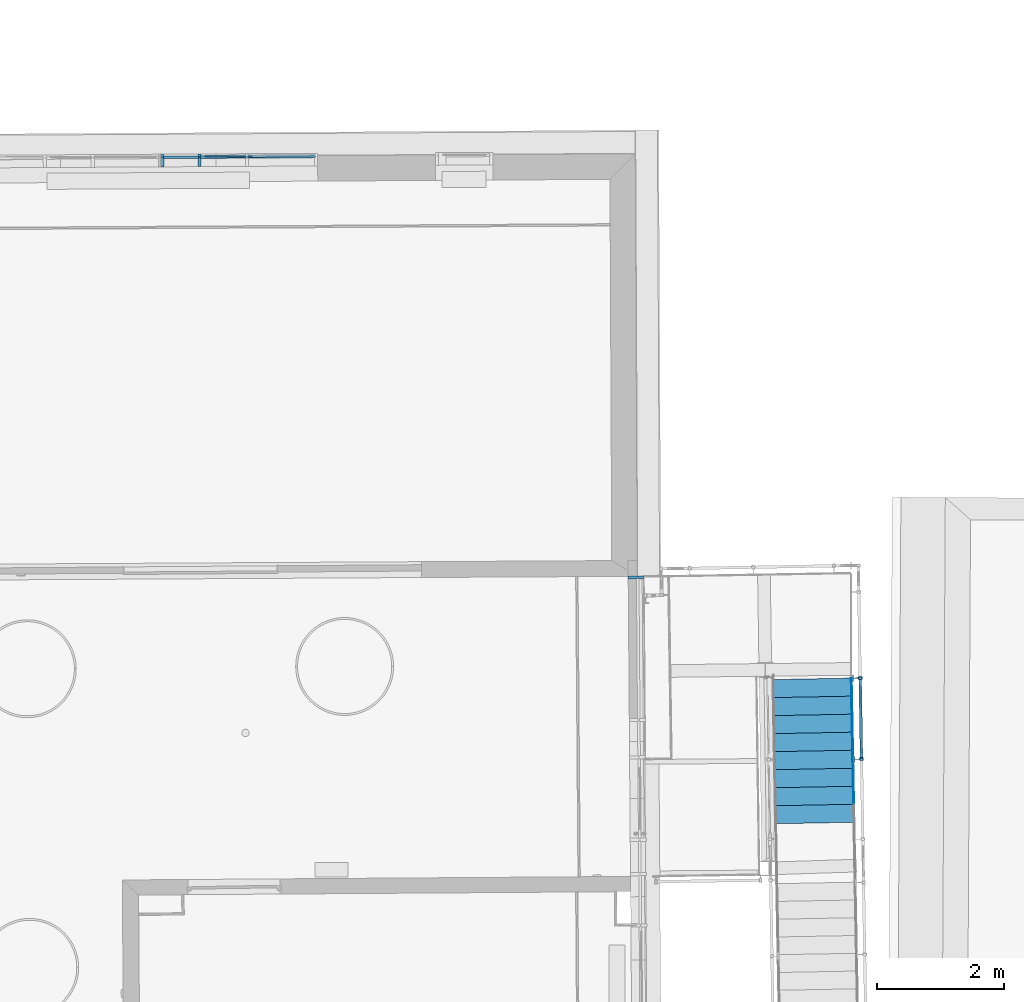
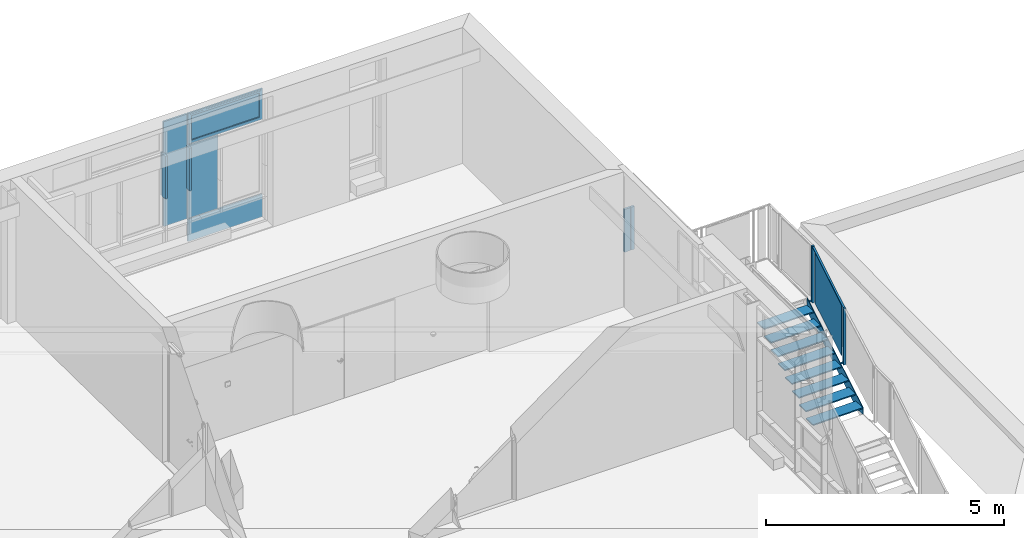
# One storey, part 109 of 158: 14 building element parts, 4 elements without a shape of their own.
"""IFC2X3 building model written with IfcOpenShell, lengths in metres."""

from ifc_helpers import new_model, entity, si_unit, converted_unit, derived_unit, money_unit, direction, frame, origin_with_axes, place, context, subcontext, project, spatial, faceted_brep, material, type_object, element, aggregate, save


model = new_model("IFC2X3")

# Units and contexts
model_context = context("Model", 3, precision=1e-05, world=origin_with_axes(), true_north=direction((0.0, 1.0)))
body_context = subcontext(model_context, "Body", "Model", "MODEL_VIEW")
ifc_project = project(units=[si_unit("LENGTHUNIT", "METRE"), si_unit("AREAUNIT", "SQUARE_METRE"), si_unit("VOLUMEUNIT", "CUBIC_METRE"), converted_unit("PLANEANGLEUNIT", "DEGREE", entity("IfcPlaneAngleMeasure", 0.0174532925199), si_unit("PLANEANGLEUNIT", "RADIAN"), dimensions=[0, 0, 0, 0, 0, 0, 0]), money_unit("EUR"), converted_unit("TIMEUNIT", "Year", entity("IfcTimeMeasure", 31556926.0), si_unit("TIMEUNIT", "SECOND"), dimensions=[0, 0, 1, 0, 0, 0, 0]), si_unit("MASSUNIT", "GRAM", prefix="KILO"), si_unit("THERMODYNAMICTEMPERATUREUNIT", "DEGREE_CELSIUS"), si_unit("LUMINOUSINTENSITYUNIT", "LUMEN"), si_unit("ENERGYUNIT", "JOULE", prefix="MEGA"), derived_unit("THERMALCONDUCTANCEUNIT", [(si_unit("POWERUNIT", "WATT"), 1), (si_unit("LENGTHUNIT", "METRE"), -1), (si_unit("THERMODYNAMICTEMPERATUREUNIT", "KELVIN"), -1)]), derived_unit("SPECIFICHEATCAPACITYUNIT", [(si_unit("ENERGYUNIT", "JOULE"), 1), (si_unit("MASSUNIT", "GRAM", prefix="KILO"), -1), (si_unit("THERMODYNAMICTEMPERATUREUNIT", "KELVIN"), -1)]), derived_unit("MASSDENSITYUNIT", [(si_unit("MASSUNIT", "GRAM", prefix="KILO"), 1), (si_unit("VOLUMEUNIT", "CUBIC_METRE"), -1)])], contexts=[model_context])

# Site, building, storey
site_placement = place(None, origin_with_axes())
site = spatial("IfcSite", under=ifc_project, at=site_placement, Name="Gelände", CompositionType="ELEMENT")
building_placement = place(site_placement, origin_with_axes())
building = spatial("IfcBuilding", under=site, at=building_placement, Name="Gebäude", CompositionType="ELEMENT")
storey_placement = place(building_placement, origin_with_axes())
storey = spatial("IfcBuildingStorey", under=building, at=storey_placement, Name="ERDGESCHOSS", CompositionType="ELEMENT", Elevation=0.0)

# Proxy, building element parts
building_element_proxy_type_1 = type_object("IfcBuildingElementProxyType", Name="Fassadentyp", PredefinedType="NOTDEFINED")
proxy_1_placement = place(storey_placement, frame((-22.8016333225, 53.9701805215, 1.34043904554), z_axis=(0.0, 0.0, 1.0), x_axis=(1.0, 0.0, 0.0)))
proxy_1 = element("IfcBuildingElementProxy", 1, at=proxy_1_placement, inside=storey, type_object=building_element_proxy_type_1, Name="Fassade-002")
ifc_material_1 = material(Name="45_Glas, Normalglas")
building_element_part_1_placement = place(proxy_1_placement, origin_with_axes())
building_element_part_1 = element("IfcBuildingElementPart", 2, at=building_element_part_1_placement, material=ifc_material_1, Name="45_Glas, Normalglas", context=body_context, shape_type="Brep", body=[
    faceted_brep([(0.304247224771, -0.0182260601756, 2.51000002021), (0.555030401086, -0.0167635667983, 2.51000002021), (0.554797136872, 0.0232357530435, 2.51000002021), (0.304013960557, 0.0217732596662, 2.51000002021), (0.304247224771, -0.0182260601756, 1.42000001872), (0.304247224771, -0.0182260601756, 0.630000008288), (0.555030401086, -0.0167635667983, 0.630000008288), (1.03213514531, -0.0139812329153, 0.630000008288), (1.03213514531, -0.0139812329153, 1.42000001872), (1.03213514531, -0.0139812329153, 2.51000002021), (1.0319018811, 0.0260180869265, 2.51000002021), (1.0319018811, 0.0260180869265, 1.42000001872), (1.0319018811, 0.0260180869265, 0.630000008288), (0.554797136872, 0.0232357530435, 0.630000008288), (0.304013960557, 0.0217732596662, 0.630000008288), (0.304013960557, 0.0217732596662, 1.42000001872)], [[[0, 1, 2, 3]], [[0, 4, 5, 6, 7, 8, 9, 1]], [[1, 9, 10, 2]], [[3, 2, 10, 11, 12, 13, 14, 15]], [[4, 0, 3, 15]], [[5, 4, 15, 14]], [[6, 5, 14, 13]], [[7, 6, 13, 12]], [[8, 7, 12, 11]], [[9, 8, 11, 10]]]),
])
building_element_part_2_placement = place(proxy_1_placement, origin_with_axes())
building_element_part_2 = element("IfcBuildingElementPart", 3, at=building_element_part_2_placement, material=ifc_material_1, Name="45_Glas, Normalglas", context=body_context, shape_type="Brep", body=[
    faceted_brep([(-0.284014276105, -0.0216566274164, 3.31499989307), (0.284247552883, -0.0183426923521, 3.31499989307), (0.28401428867, 0.0216566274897, 3.31499989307), (-0.284247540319, 0.0183426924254, 3.31499989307), (-0.284014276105, -0.0216566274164, 2.5200000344), (-0.284014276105, -0.0216566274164, 1.41999999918), (-0.284014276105, -0.0216566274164, 0.630000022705), (0.284247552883, -0.0183426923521, 0.630000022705), (0.284247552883, -0.0183426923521, 1.41999999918), (0.284247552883, -0.0183426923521, 2.5200000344), (0.28401428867, 0.0216566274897, 2.5200000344), (0.28401428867, 0.0216566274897, 1.41999999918), (0.28401428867, 0.0216566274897, 0.630000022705), (-0.284247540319, 0.0183426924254, 0.630000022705), (-0.284247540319, 0.0183426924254, 1.41999999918), (-0.284247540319, 0.0183426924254, 2.5200000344)], [[[0, 1, 2, 3]], [[0, 4, 5, 6, 7, 8, 9, 1]], [[1, 9, 10, 2]], [[3, 2, 10, 11, 12, 13, 14, 15]], [[4, 0, 3, 15]], [[5, 4, 15, 14]], [[6, 5, 14, 13]], [[7, 6, 13, 12]], [[8, 7, 12, 11]], [[9, 8, 11, 10]]]),
])
ifc_material_2 = material(Name="53_Metall, Aluminium")
building_element_part_3_placement = place(proxy_1_placement, origin_with_axes())
building_element_part_3 = element("IfcBuildingElementPart", 4, at=building_element_part_3_placement, material=ifc_material_2, Name="53_Metall, Aluminium", context=body_context, shape_type="Brep", body=[
    faceted_brep([(2.10777632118, 0.0422924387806, 2.54500000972), (0.31895537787, 0.0318605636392, 2.54500000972), (0.318926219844, 0.0368604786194, 2.54500000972), (2.10774716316, 0.0472923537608, 2.54500000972), (2.06277708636, 0.0420300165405, 2.59000000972), (0.363954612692, 0.0321229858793, 2.59000000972), (0.363925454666, 0.0371229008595, 2.59000000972), (2.06274792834, 0.0470299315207, 2.59000000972)], [[[0, 1, 2, 3]], [[0, 4, 5, 1]], [[1, 5, 6, 2]], [[3, 2, 6, 7]], [[4, 0, 3, 7]], [[5, 4, 7, 6]]]),
    faceted_brep([(0.31895537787, 0.0318605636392, 2.54500000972), (0.31895537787, 0.0318605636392, 3.29999989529), (0.318926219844, 0.0368604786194, 3.29999989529), (0.318926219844, 0.0368604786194, 2.54500000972), (0.363954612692, 0.0321229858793, 2.59000000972), (0.363954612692, 0.0321229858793, 3.25499989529), (0.363925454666, 0.0371229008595, 3.25499989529), (0.363925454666, 0.0371229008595, 2.59000000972)], [[[0, 1, 2, 3]], [[0, 4, 5, 1]], [[1, 5, 6, 2]], [[3, 2, 6, 7]], [[4, 0, 3, 7]], [[5, 4, 7, 6]]]),
    faceted_brep([(2.10777632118, 0.0422924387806, 3.29999989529), (2.06277708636, 0.0420300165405, 3.25499989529), (2.06274792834, 0.0470299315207, 3.25499989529), (2.10774716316, 0.0472923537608, 3.29999989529), (0.31895537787, 0.0318605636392, 3.29999989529), (0.363954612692, 0.0321229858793, 3.25499989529), (0.363925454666, 0.0371229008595, 3.25499989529), (0.318926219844, 0.0368604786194, 3.29999989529)], [[[0, 1, 2, 3]], [[0, 4, 5, 1]], [[1, 5, 6, 2]], [[3, 2, 6, 7]], [[4, 0, 3, 7]], [[5, 4, 7, 6]]]),
    faceted_brep([(2.10777632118, 0.0422924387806, 2.54500000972), (2.06277708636, 0.0420300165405, 2.59000000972), (2.06274792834, 0.0470299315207, 2.59000000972), (2.10774716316, 0.0472923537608, 2.54500000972), (2.10777632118, 0.0422924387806, 3.29999989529), (2.06277708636, 0.0420300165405, 3.25499989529), (2.06274792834, 0.0470299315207, 3.25499989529), (2.10774716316, 0.0472923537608, 3.29999989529)], [[[0, 1, 2, 3]], [[0, 4, 5, 1]], [[1, 5, 6, 2]], [[3, 2, 6, 7]], [[4, 0, 3, 7]], [[5, 4, 7, 6]]]),
    faceted_brep([(2.10806790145, -0.00770671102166, 2.54500000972), (0.319246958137, -0.0181385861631, 2.54500000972), (0.31895537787, 0.0318605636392, 2.54500000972), (2.10777632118, 0.0422924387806, 2.54500000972), (2.08806824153, -0.00782334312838, 2.56500000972), (0.339246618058, -0.0180219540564, 2.56500000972), (0.338955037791, 0.0319771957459, 2.56500000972), (2.08777666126, 0.0421758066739, 2.56500000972)], [[[0, 1, 2, 3]], [[0, 4, 5, 1]], [[1, 5, 6, 2]], [[3, 2, 6, 7]], [[4, 0, 3, 7]], [[5, 4, 7, 6]]]),
    faceted_brep([(0.319246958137, -0.0181385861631, 2.54500000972), (0.319246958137, -0.0181385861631, 3.29999989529), (0.31895537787, 0.0318605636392, 3.29999989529), (0.31895537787, 0.0318605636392, 2.54500000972), (0.339246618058, -0.0180219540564, 2.56500000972), (0.339246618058, -0.0180219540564, 3.27999989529), (0.338955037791, 0.0319771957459, 3.27999989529), (0.338955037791, 0.0319771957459, 2.56500000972)], [[[0, 1, 2, 3]], [[0, 4, 5, 1]], [[1, 5, 6, 2]], [[3, 2, 6, 7]], [[4, 0, 3, 7]], [[5, 4, 7, 6]]]),
    faceted_brep([(2.10806790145, -0.00770671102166, 3.29999989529), (2.08806824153, -0.00782334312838, 3.27999989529), (2.08777666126, 0.0421758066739, 3.27999989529), (2.10777632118, 0.0422924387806, 3.29999989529), (0.319246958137, -0.0181385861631, 3.29999989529), (0.339246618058, -0.0180219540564, 3.27999989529), (0.338955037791, 0.0319771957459, 3.27999989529), (0.31895537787, 0.0318605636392, 3.29999989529)], [[[0, 1, 2, 3]], [[0, 4, 5, 1]], [[1, 5, 6, 2]], [[3, 2, 6, 7]], [[4, 0, 3, 7]], [[5, 4, 7, 6]]]),
    faceted_brep([(2.10806790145, -0.00770671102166, 2.54500000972), (2.08806824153, -0.00782334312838, 2.56500000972), (2.08777666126, 0.0421758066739, 2.56500000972), (2.10777632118, 0.0422924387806, 2.54500000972), (2.10806790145, -0.00770671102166, 3.29999989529), (2.08806824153, -0.00782334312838, 3.27999989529), (2.08777666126, 0.0421758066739, 3.27999989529), (2.10777632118, 0.0422924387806, 3.29999989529)], [[[0, 1, 2, 3]], [[0, 4, 5, 1]], [[1, 5, 6, 2]], [[3, 2, 6, 7]], [[4, 0, 3, 7]], [[5, 4, 7, 6]]]),
    faceted_brep([(2.12306762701, -0.00761923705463, 2.53000000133), (0.304247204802, -0.0182260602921, 2.53000000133), (0.304013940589, 0.0217732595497, 2.53000000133), (2.1228343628, 0.0323800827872, 2.53000000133), (2.10806790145, -0.00770671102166, 2.54500000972), (0.319246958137, -0.0181385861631, 2.54500000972), (0.319013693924, 0.0218607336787, 2.54500000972), (2.10783463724, 0.0322926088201, 2.54500000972)], [[[0, 1, 2, 3]], [[0, 4, 5, 1]], [[1, 5, 6, 2]], [[3, 2, 6, 7]], [[4, 0, 3, 7]], [[5, 4, 7, 6]]]),
    faceted_brep([(0.304247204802, -0.0182260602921, 2.53000000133), (0.304247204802, -0.0182260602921, 3.31499987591), (0.304013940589, 0.0217732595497, 3.31499987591), (0.304013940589, 0.0217732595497, 2.53000000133), (0.319246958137, -0.0181385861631, 2.54500000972), (0.319246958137, -0.0181385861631, 3.29999989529), (0.319013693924, 0.0218607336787, 3.29999989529), (0.319013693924, 0.0218607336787, 2.54500000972)], [[[0, 1, 2, 3]], [[0, 4, 5, 1]], [[1, 5, 6, 2]], [[3, 2, 6, 7]], [[4, 0, 3, 7]], [[5, 4, 7, 6]]]),
    faceted_brep([(0.304247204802, -0.0182260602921, 3.31499987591), (2.12306762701, -0.00761923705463, 3.31499987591), (2.1228343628, 0.0323800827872, 3.31499987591), (0.304013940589, 0.0217732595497, 3.31499987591), (0.319246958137, -0.0181385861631, 3.29999989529), (2.10806790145, -0.00770671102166, 3.29999989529), (2.10783463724, 0.0322926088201, 3.29999989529), (0.319013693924, 0.0218607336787, 3.29999989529)], [[[0, 1, 2, 3]], [[0, 4, 5, 1]], [[1, 5, 6, 2]], [[3, 2, 6, 7]], [[4, 0, 3, 7]], [[5, 4, 7, 6]]]),
    faceted_brep([(2.12306762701, -0.00761923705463, 3.31499987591), (2.12306762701, -0.00761923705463, 2.53000000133), (2.1228343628, 0.0323800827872, 2.53000000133), (2.1228343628, 0.0323800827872, 3.31499987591), (2.10806790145, -0.00770671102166, 3.29999989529), (2.10806790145, -0.00770671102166, 2.54500000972), (2.10783463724, 0.0322926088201, 2.54500000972), (2.10783463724, 0.0322926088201, 3.29999989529)], [[[0, 1, 2, 3]], [[0, 4, 5, 1]], [[1, 5, 6, 2]], [[3, 2, 6, 7]], [[4, 0, 3, 7]], [[5, 4, 7, 6]]]),
    faceted_brep([(2.04277742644, 0.0419133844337, 2.61000000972), (2.04309816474, -0.0130856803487, 2.61000000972), (2.04309816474, -0.0130856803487, 3.23499989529), (2.04277742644, 0.0419133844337, 3.23499989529), (2.08777666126, 0.0421758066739, 2.56500000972), (2.08809739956, -0.0128232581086, 2.56500000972), (2.08809739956, -0.0128232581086, 3.27999989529), (2.08777666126, 0.0421758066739, 3.27999989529)], [[[0, 1, 2, 3]], [[4, 5, 1, 0]], [[1, 5, 6, 2]], [[3, 2, 6, 7]], [[0, 3, 7, 4]], [[7, 6, 5, 4]]]),
    faceted_brep([(0.338955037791, 0.0319771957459, 2.56500000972), (0.339275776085, -0.0230218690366, 2.56500000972), (0.339275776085, -0.0230218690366, 3.27999989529), (0.338955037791, 0.0319771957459, 3.27999989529), (0.383954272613, 0.032239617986, 2.61000000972), (0.384275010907, -0.0227594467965, 2.61000000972), (0.384275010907, -0.0227594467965, 3.23499989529), (0.383954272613, 0.032239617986, 3.23499989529)], [[[0, 1, 2, 3]], [[4, 5, 1, 0]], [[1, 5, 6, 2]], [[3, 2, 6, 7]], [[0, 3, 7, 4]], [[7, 6, 5, 4]]]),
    faceted_brep([(0.338955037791, 0.0319771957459, 2.56500000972), (0.339275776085, -0.0230218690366, 2.56500000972), (0.384275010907, -0.0227594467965, 2.61000000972), (0.383954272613, 0.032239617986, 2.61000000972), (2.08777666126, 0.0421758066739, 2.56500000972), (2.08809739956, -0.0128232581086, 2.56500000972), (2.04309816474, -0.0130856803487, 2.61000000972), (2.04277742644, 0.0419133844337, 2.61000000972)], [[[0, 1, 2, 3]], [[4, 5, 1, 0]], [[1, 5, 6, 2]], [[3, 2, 6, 7]], [[0, 3, 7, 4]], [[7, 6, 5, 4]]]),
    faceted_brep([(2.08777666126, 0.0421758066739, 3.27999989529), (2.08809739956, -0.0128232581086, 3.27999989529), (2.04309816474, -0.0130856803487, 3.23499989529), (2.04277742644, 0.0419133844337, 3.23499989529), (0.338955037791, 0.0319771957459, 3.27999989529), (0.339275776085, -0.0230218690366, 3.27999989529), (0.384275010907, -0.0227594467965, 3.23499989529), (0.383954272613, 0.032239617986, 3.23499989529)], [[[0, 1, 2, 3]], [[4, 5, 1, 0]], [[1, 5, 6, 2]], [[3, 2, 6, 7]], [[0, 3, 7, 4]], [[7, 6, 5, 4]]]),
])
building_element_part_4_placement = place(proxy_1_placement, origin_with_axes())
building_element_part_4 = element("IfcBuildingElementPart", 5, at=building_element_part_4_placement, material=ifc_material_1, Name="45_Glas, Normalglas", context=body_context, shape_type="Brep", body=[
    faceted_brep([(2.0428357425, 0.0319135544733, 2.61000000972), (2.04292904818, 0.0159138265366, 2.61000000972), (0.384105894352, 0.00624006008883, 2.61000000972), (0.384012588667, 0.0222397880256, 2.61000000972), (2.0428357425, 0.0319135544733, 3.23499989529), (2.04292904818, 0.0159138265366, 3.23499989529), (0.384105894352, 0.00624006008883, 3.23499989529), (0.384012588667, 0.0222397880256, 3.23499989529)], [[[0, 1, 2, 3]], [[4, 5, 1, 0]], [[1, 5, 6, 2]], [[3, 2, 6, 7]], [[0, 3, 7, 4]], [[7, 6, 5, 4]]]),
])
building_element_part_5_placement = place(proxy_1_placement, origin_with_axes())
building_element_part_5 = element("IfcBuildingElementPart", 6, at=building_element_part_5_placement, material=ifc_material_1, Name="45_Glas, Normalglas", context=body_context, shape_type="Brep", body=[
    faceted_brep([(0.304247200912, -0.0182260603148, 0.610000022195), (0.555030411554, -0.0167635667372, 0.610000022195), (0.55479714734, 0.0232357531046, 0.610000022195), (0.304013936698, 0.021773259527, 0.610000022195), (0.304247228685, -0.0182260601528, 0.0349999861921), (0.555030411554, -0.0167635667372, 0.0349999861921), (2.12306762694, -0.00761923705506, 0.0349999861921), (2.12306762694, -0.00761923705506, 0.610000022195), (1.04213496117, -0.0139229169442, 0.610000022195), (1.04190169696, 0.0260764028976, 0.610000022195), (2.12283436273, 0.0323800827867, 0.610000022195), (2.12283436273, 0.0323800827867, 0.0349999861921), (0.55479714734, 0.0232357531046, 0.0349999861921), (0.304013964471, 0.021773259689, 0.0349999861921)], [[[0, 1, 2, 3]], [[0, 4, 5, 6, 7, 8, 1]], [[1, 8, 9, 2]], [[3, 2, 9, 10, 11, 12, 13]], [[4, 0, 3, 13]], [[5, 4, 13, 12]], [[6, 5, 12, 11]], [[7, 6, 11, 10]], [[8, 7, 10, 9]]]),
])
building_element_part_6_placement = place(proxy_1_placement, origin_with_axes())
building_element_part_6 = element("IfcBuildingElementPart", 7, at=building_element_part_6_placement, material=ifc_material_2, Name="53_Metall, Aluminium", context=body_context, shape_type="Brep", body=[
    faceted_brep([(0.284189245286, -0.00834286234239, 2.52000001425), (0.269189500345, -0.00843033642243, 2.52000001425), (0.270005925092, -0.148427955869, 2.52000001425), (0.320005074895, -0.148136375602, 2.52000001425), (0.319188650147, -0.00813875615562, 2.52000001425), (0.304188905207, -0.00822623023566, 2.52000001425), (0.3040722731, 0.0117734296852, 2.52000001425), (0.319072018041, 0.0118609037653, 2.52000001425), (0.318838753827, 0.0518602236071, 2.52000001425), (0.268839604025, 0.0515686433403, 2.52000001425), (0.269072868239, 0.0115693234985, 2.52000001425), (0.284072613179, 0.0116567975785, 2.52000001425), (0.284189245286, -0.00834286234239, 1.42000001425), (0.269189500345, -0.00843033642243, 1.42000001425), (0.270005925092, -0.148427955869, 1.42000001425), (0.320005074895, -0.148136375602, 1.42000001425), (0.319188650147, -0.00813875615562, 1.42000001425), (0.304188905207, -0.00822623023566, 1.42000001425), (0.3040722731, 0.0117734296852, 1.42000001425), (0.319072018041, 0.0118609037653, 1.42000001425), (0.318838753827, 0.0518602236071, 1.42000001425), (0.268839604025, 0.0515686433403, 1.42000001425), (0.269072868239, 0.0115693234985, 1.42000001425), (0.284072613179, 0.0116567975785, 1.42000001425)], [[[0, 1, 2, 3, 4, 5, 6, 7, 8, 9, 10, 11]], [[1, 0, 12, 13]], [[1, 13, 14, 2]], [[3, 2, 14, 15]], [[4, 3, 15, 16]], [[4, 16, 17, 5]], [[5, 17, 18, 6]], [[7, 6, 18, 19]], [[19, 20, 8, 7]], [[9, 8, 20, 21]], [[22, 10, 9, 21]], [[11, 10, 22, 23]], [[0, 11, 23, 12]], [[23, 22, 21, 20, 19, 18, 17, 16, 15, 14, 13, 12]]]),
])
building_element_part_7_placement = place(proxy_1_placement, origin_with_axes())
building_element_part_7 = element("IfcBuildingElementPart", 8, at=building_element_part_7_placement, material=ifc_material_2, Name="53_Metall, Aluminium", context=body_context, shape_type="Brep", body=[
    faceted_brep([(-0.304072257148, -0.0117734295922, 2.52000001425), (-0.319072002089, -0.0118609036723, 2.52000001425), (-0.318255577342, -0.151858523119, 2.52000001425), (-0.26825642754, -0.151566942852, 2.52000001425), (-0.269072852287, -0.0115693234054, 2.52000001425), (-0.284072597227, -0.0116567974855, 2.52000001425), (-0.284189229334, 0.00834286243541, 2.52000001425), (-0.269189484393, 0.00843033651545, 2.52000001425), (-0.269422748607, 0.0484296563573, 2.52000001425), (-0.319421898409, 0.0481380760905, 2.52000001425), (-0.319188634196, 0.00813875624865, 2.52000001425), (-0.304188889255, 0.00822623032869, 2.52000001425), (-0.304072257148, -0.0117734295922, 1.42000001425), (-0.319072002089, -0.0118609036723, 1.42000001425), (-0.318255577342, -0.151858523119, 1.42000001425), (-0.26825642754, -0.151566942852, 1.42000001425), (-0.269072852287, -0.0115693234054, 1.42000001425), (-0.284072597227, -0.0116567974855, 1.42000001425), (-0.284189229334, 0.00834286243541, 1.42000001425), (-0.269189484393, 0.00843033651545, 1.42000001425), (-0.269422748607, 0.0484296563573, 1.42000001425), (-0.319421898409, 0.0481380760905, 1.42000001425), (-0.319188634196, 0.00813875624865, 1.42000001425), (-0.304188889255, 0.00822623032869, 1.42000001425)], [[[0, 1, 2, 3, 4, 5, 6, 7, 8, 9, 10, 11]], [[1, 0, 12, 13]], [[1, 13, 14, 2]], [[3, 2, 14, 15]], [[4, 3, 15, 16]], [[4, 16, 17, 5]], [[5, 17, 18, 6]], [[7, 6, 18, 19]], [[19, 20, 8, 7]], [[9, 8, 20, 21]], [[22, 10, 9, 21]], [[11, 10, 22, 23]], [[0, 11, 23, 12]], [[23, 22, 21, 20, 19, 18, 17, 16, 15, 14, 13, 12]]]),
])
aggregate(proxy_1, [building_element_part_1, building_element_part_2, building_element_part_3, building_element_part_4, building_element_part_5, building_element_part_6, building_element_part_7])

# Proxy, building element part
proxy_2_placement = place(storey_placement, frame((-15.5457352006, 40.9565245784, 1.34043905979), z_axis=(0.0, 0.0, 1.0), x_axis=(1.0, 0.0, 0.0)))
proxy_2 = element("IfcBuildingElementProxy", 9, at=proxy_2_placement, inside=storey, type_object=building_element_proxy_type_1, Name="Fassade-002")
building_element_part_8_placement = place(proxy_2_placement, origin_with_axes())
building_element_part_8 = element("IfcBuildingElementPart", 10, at=building_element_part_8_placement, material=ifc_material_2, Name="53_Metall, Aluminium", context=body_context, shape_type="Brep", body=[
    faceted_brep([(-0.0596164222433, 6.37652076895, 2.51999994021), (-0.0396170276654, 6.37667638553, 2.51999994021), (-0.0395003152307, 6.3616768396, 2.51999994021), (0.0404972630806, 6.36229930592, 2.51999994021), (0.0401082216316, 6.41229779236, 2.51999994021), (-0.199884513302, 6.41043039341, 2.51999994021), (-0.199495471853, 6.36043190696, 2.51999994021), (-0.0594997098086, 6.36152122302, 2.51999994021), (-0.0596164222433, 6.37652076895, 1.41999994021), (-0.0396170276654, 6.37667638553, 1.41999994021), (-0.0395003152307, 6.3616768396, 1.41999994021), (0.0404972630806, 6.36229930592, 1.41999994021), (0.0401082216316, 6.41229779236, 1.41999994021), (-0.199884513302, 6.41043039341, 1.41999994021), (-0.199495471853, 6.36043190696, 1.41999994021), (-0.0594997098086, 6.36152122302, 1.41999994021)], [[[0, 1, 2, 3, 4, 5, 6, 7]], [[1, 0, 8, 9]], [[10, 2, 1, 9]], [[2, 10, 11, 3]], [[12, 4, 3, 11]], [[13, 5, 4, 12]], [[14, 6, 5, 13]], [[15, 7, 6, 14]], [[0, 7, 15, 8]], [[8, 15, 14, 13, 12, 11, 10, 9]]]),
])
aggregate(proxy_2, [building_element_part_8])

# Proxy, building element parts
building_element_proxy_type_2 = type_object("IfcBuildingElementProxyType", Name="Geländerart", PredefinedType="NOTDEFINED")
proxy_3_placement = place(storey_placement, frame((-12.121386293, 39.1724071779, -2.51797066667), z_axis=(0.0, 0.0, 1.0), x_axis=(1.0, 0.0, 0.0)))
proxy_3 = element("IfcBuildingElementProxy", 11, at=proxy_3_placement, inside=storey, type_object=building_element_proxy_type_2, Name="Geländer-001")
ifc_material_3 = material(Name="56_Metall, Stahl verzinkt")
building_element_part_9_placement = place(proxy_3_placement, origin_with_axes())
building_element_part_9 = element("IfcBuildingElementPart", 12, at=building_element_part_9_placement, material=ifc_material_3, Name="56_Metall, Stahl verzinkt", context=body_context, shape_type="Brep", body=[
    faceted_brep([(0.0263202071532, 5.30143246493, 2.927904), (0.0262386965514, 5.30643180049, 2.927904), (-0.0537506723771, 5.30512763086, 2.927904), (-0.0536691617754, 5.3001282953, 2.927904), (0.0262386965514, 5.30643180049, 2.877904), (0.0263202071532, 5.30143246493, 2.877904), (-0.0537506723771, 5.30512763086, 2.877904), (-0.0536691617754, 5.3001282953, 2.877904)], [[[0, 1, 2, 3]], [[4, 1, 0, 5]], [[1, 4, 6, 2]], [[7, 3, 2, 6]], [[5, 0, 3, 7]], [[4, 5, 7, 6]]]),
    faceted_brep([(-0.062893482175, 5.25247158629, 2.952904), (-0.0528948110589, 5.2526346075, 2.952904), (-0.0545250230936, 5.35262131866, 2.952904), (-0.0645236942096, 5.35245829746, 2.952904), (-0.062893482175, 5.25247158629, 2.852904), (-0.0528948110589, 5.2526346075, 2.852904), (-0.0545250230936, 5.35262131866, 2.852904), (-0.0645236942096, 5.35245829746, 2.852904)], [[[0, 1, 2, 3]], [[4, 5, 1, 0]], [[1, 5, 6, 2]], [[3, 2, 6, 7]], [[0, 3, 7, 4]], [[7, 6, 5, 4]]]),
    faceted_brep([(0.0859454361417, 5.32490760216, 2.86515040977), (0.0259534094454, 5.32392947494, 2.86515040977), (0.0259534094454, 5.32392947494, 4.31015040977), (0.0859454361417, 5.32490760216, 4.31015040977), (0.0865975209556, 5.2849129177, 2.84065759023), (0.0266054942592, 5.28393479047, 2.84065759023), (0.0266054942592, 5.28393479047, 4.28565759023), (0.0865975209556, 5.2849129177, 4.28565759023)], [[[0, 1, 2, 3]], [[0, 4, 5, 1]], [[1, 5, 6, 2]], [[3, 2, 6, 7]], [[4, 0, 3, 7]], [[5, 4, 7, 6]]]),
])
building_element_part_10_placement = place(proxy_3_placement, origin_with_axes())
building_element_part_10 = element("IfcBuildingElementPart", 13, at=building_element_part_10_placement, material=ifc_material_3, Name="56_Metall, Stahl verzinkt", context=body_context, shape_type="Brep", body=[
    faceted_brep([(0.00548020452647, 6.57962406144, 3.748423), (0.00539869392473, 6.584623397, 3.748423), (-0.0745906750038, 6.58331922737, 3.748423), (-0.0745091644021, 6.57831989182, 3.748423), (0.00539869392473, 6.584623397, 3.698423), (0.00548020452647, 6.57962406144, 3.698423), (-0.0745906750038, 6.58331922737, 3.698423), (-0.0745091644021, 6.57831989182, 3.698423)], [[[0, 1, 2, 3]], [[4, 1, 0, 5]], [[1, 4, 6, 2]], [[7, 3, 2, 6]], [[5, 0, 3, 7]], [[4, 5, 7, 6]]]),
    faceted_brep([(-0.0837334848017, 6.53066318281, 3.773423), (-0.0737348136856, 6.53082620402, 3.773423), (-0.0753650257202, 6.63081291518, 3.773423), (-0.0853636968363, 6.63064989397, 3.773423), (-0.0837334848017, 6.53066318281, 3.673423), (-0.0737348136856, 6.53082620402, 3.673423), (-0.0753650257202, 6.63081291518, 3.673423), (-0.0853636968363, 6.63064989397, 3.673423)], [[[0, 1, 2, 3]], [[4, 5, 1, 0]], [[1, 5, 6, 2]], [[3, 2, 6, 7]], [[0, 3, 7, 4]], [[7, 6, 5, 4]]]),
    faceted_brep([(0.0651054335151, 6.60309919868, 3.67928931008), (0.00511340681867, 6.60212107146, 3.67928931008), (0.00511340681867, 6.60212107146, 5.12428931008), (0.0651054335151, 6.60309919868, 5.12428931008), (0.0657575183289, 6.56310451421, 3.66755668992), (0.00576549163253, 6.56212638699, 3.66755668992), (0.00576549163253, 6.56212638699, 5.11255668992), (0.0657575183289, 6.56310451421, 5.11255668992)], [[[0, 1, 2, 3]], [[0, 4, 5, 1]], [[1, 5, 6, 2]], [[3, 2, 6, 7]], [[4, 0, 3, 7]], [[5, 4, 7, 6]]]),
])
building_element_part_11_placement = place(proxy_3_placement, origin_with_axes())
building_element_part_11 = element("IfcBuildingElementPart", 14, at=building_element_part_11_placement, material=ifc_material_3, Name="56_Metall, Stahl verzinkt", context=body_context, shape_type="Brep", body=[
    faceted_brep([(0.0787724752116, 5.30478799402, 4.297904), (0.0786447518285, 5.31262172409, 4.28510878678), (0.0578607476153, 6.58737873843, 5.103423), (0.0579324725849, 6.58297959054, 5.118423), (0.0337784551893, 5.30405439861, 4.297904), (0.0336507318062, 5.31188812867, 4.28510878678), (0.012866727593, 6.58664514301, 5.103423), (0.0129384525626, 6.58224599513, 5.118423)], [[[0, 1, 2, 3]], [[0, 4, 5, 1]], [[1, 5, 6, 2]], [[3, 2, 6, 7]], [[4, 0, 3, 7]], [[5, 4, 7, 6]]]),
])
building_element_part_12_placement = place(proxy_3_placement, origin_with_axes())
building_element_part_12 = element("IfcBuildingElementPart", 15, at=building_element_part_12_placement, material=ifc_material_3, Name="56_Metall, Stahl verzinkt", context=body_context, shape_type="Brep", body=[
    faceted_brep([(0.0270670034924, 6.48246306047, 3.70923778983), (0.0446465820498, 5.40424488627, 3.01708921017), (0.0446465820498, 5.40424488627, 4.31208921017), (0.0270670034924, 6.48246306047, 5.00423778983), (0.0443205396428, 5.42424222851, 4.30116094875), (0.0443205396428, 5.42424222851, 3.05369155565), (0.0273930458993, 6.46246571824, 3.72016605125), (0.0273930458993, 6.46246571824, 4.96763544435), (0.0646439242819, 5.40457092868, 3.01708921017), (0.0470643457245, 6.48278910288, 3.70923778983), (0.0646439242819, 5.40457092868, 4.31208921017), (0.0470643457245, 6.48278910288, 5.00423778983), (0.064317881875, 5.42456827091, 3.05369155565), (0.064317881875, 5.42456827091, 4.30116094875), (0.0473903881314, 6.46279176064, 3.72016605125), (0.0473903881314, 6.46279176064, 4.96763544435)], [[[0, 1, 2, 3], [4, 5, 6, 7]], [[8, 1, 0, 9]], [[10, 2, 1, 8]], [[3, 2, 10, 11]], [[0, 3, 11, 9]], [[12, 5, 4, 13]], [[14, 6, 5, 12]], [[7, 6, 14, 15]], [[4, 7, 15, 13]], [[10, 8, 9, 11], [14, 12, 13, 15]]]),
    faceted_brep([(0.0273930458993, 6.46246571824, 3.72016605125), (0.0443205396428, 5.42424222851, 3.05369155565), (0.0443205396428, 5.42424222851, 4.30116094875), (0.0273930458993, 6.46246571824, 4.96763544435), (0.064317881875, 5.42456827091, 3.05369155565), (0.0473903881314, 6.46279176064, 3.72016605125), (0.064317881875, 5.42456827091, 4.30116094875), (0.0473903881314, 6.46279176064, 4.96763544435)], [[[0, 1, 2, 3]], [[4, 1, 0, 5]], [[6, 2, 1, 4]], [[3, 2, 6, 7]], [[0, 3, 7, 5]], [[6, 4, 5, 7]]]),
])
aggregate(proxy_3, [building_element_part_9, building_element_part_10, building_element_part_11, building_element_part_12])

# Stair, building element parts
stair_placement = place(storey_placement, frame((-12.1891757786, 43.4802433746, -0.312386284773), z_axis=(0.0, 0.0, 1.0), x_axis=(0.999990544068, 0.00434876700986, 0.0)))
stair = element("IfcStair", 16, at=stair_placement, inside=storey, Name="Treppe-003", ShapeType="NOTDEFINED")
building_element_part_13_placement = place(stair_placement, origin_with_axes())
building_element_part_13 = element("IfcBuildingElementPart", 17, at=building_element_part_13_placement, material=ifc_material_3, Name="56_Metall, Stahl verzinkt", context=body_context, shape_type="Brep", body=[
    faceted_brep([(-0.0180932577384, 2.27451103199, 1.29555676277), (-0.0180932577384, 2.27451103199, 1.62738628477), (0.0149984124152, 0.000218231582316, 0.180820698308), (0.0149984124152, 0.000218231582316, 0.0), (0.0109247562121, 0.280188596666, 0.0), (0.0109247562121, 0.280188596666, 0.0270665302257), (-0.0330916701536, 2.2742928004, 1.62738628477), (-0.0330916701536, 2.2742928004, 1.29555676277), (0.0, 0.0, 0.180820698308), (0.0, 0.0, 0.0), (-0.00407365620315, 0.279970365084, 0.0), (-0.00407365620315, 0.279970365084, 0.0270665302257)], [[[0, 1, 2, 3, 4, 5]], [[6, 1, 0, 7]], [[1, 6, 8, 2]], [[3, 2, 8, 9]], [[3, 9, 10, 4]], [[10, 11, 5, 4]], [[7, 0, 5, 11]], [[6, 7, 11, 10, 9, 8]]]),
])
ifc_material_4 = material(Name="05_ALLGEMEIN - TRAGENDE BAUTEILE")
building_element_part_14_placement = place(stair_placement, origin_with_axes())
building_element_part_14 = element("IfcBuildingElementPart", 18, at=building_element_part_14_placement, material=ifc_material_4, Name="05_ALLGEMEIN - TRAGENDE BAUTEILE", context=body_context, shape_type="Brep", body=[
    faceted_brep([(-1.25296255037, 2.25654329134, 1.41656558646), (-1.24882609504, 1.97225669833, 1.41656558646), (-1.24882609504, 1.97225669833, 1.44656558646), (-1.25296255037, 2.25654329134, 1.44656558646), (-0.0330916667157, 2.27429279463, 1.41656558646), (-0.0289552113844, 1.99000620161, 1.41656558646), (-0.0289552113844, 1.99000620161, 1.44656558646), (-0.0330916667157, 2.27429279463, 1.44656558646)], [[[0, 1, 2, 3]], [[4, 5, 1, 0]], [[1, 5, 6, 2]], [[3, 2, 6, 7]], [[0, 3, 7, 4]], [[5, 4, 7, 6]]]),
    faceted_brep([(-1.21987087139, -0.0177495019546, 0.150820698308), (-1.21987087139, -0.0177495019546, 0.180820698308), (-1.2240073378, 0.266537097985, 0.180820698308), (-1.2240073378, 0.266537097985, 0.150820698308), (-2.26262675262e-10, 0.0, 0.150820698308), (-2.26262675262e-10, 0.0, 0.180820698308), (-0.00413644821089, 0.284286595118, 0.180820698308), (-0.00413644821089, 0.284286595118, 0.150820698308)], [[[0, 1, 2, 3]], [[4, 5, 1, 0]], [[1, 5, 6, 2]], [[2, 6, 7, 3]], [[4, 0, 3, 7]], [[7, 6, 5, 4]]]),
    faceted_brep([(-1.22400733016, 0.266537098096, 0.331641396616), (-1.22400733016, 0.266537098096, 0.361641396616), (-1.22814379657, 0.550823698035, 0.361641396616), (-1.22814379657, 0.550823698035, 0.331641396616), (-0.00413645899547, 0.284286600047, 0.331641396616), (-0.00413645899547, 0.284286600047, 0.361641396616), (-0.00827290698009, 0.568573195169, 0.361641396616), (-0.00827290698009, 0.568573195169, 0.331641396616)], [[[0, 1, 2, 3]], [[4, 5, 1, 0]], [[1, 5, 6, 2]], [[2, 6, 7, 3]], [[4, 0, 3, 7]], [[7, 6, 5, 4]]]),
    faceted_brep([(-1.22814378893, 0.550823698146, 0.512462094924), (-1.22814378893, 0.550823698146, 0.542462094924), (-1.23228025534, 0.835110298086, 0.542462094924), (-1.23228025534, 0.835110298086, 0.512462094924), (-0.00827291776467, 0.568573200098, 0.512462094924), (-0.00827291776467, 0.568573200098, 0.542462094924), (-0.0124093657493, 0.852859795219, 0.542462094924), (-0.0124093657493, 0.852859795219, 0.512462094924)], [[[0, 1, 2, 3]], [[4, 5, 1, 0]], [[1, 5, 6, 2]], [[2, 6, 7, 3]], [[4, 0, 3, 7]], [[7, 6, 5, 4]]]),
    faceted_brep([(-1.2322802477, 0.835110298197, 0.693282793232), (-1.2322802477, 0.835110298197, 0.723282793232), (-1.23641671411, 1.11939689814, 0.723282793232), (-1.23641671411, 1.11939689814, 0.693282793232), (-0.0124093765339, 0.852859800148, 0.693282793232), (-0.0124093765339, 0.852859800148, 0.723282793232), (-0.0165458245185, 1.13714639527, 0.723282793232), (-0.0165458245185, 1.13714639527, 0.693282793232)], [[[0, 1, 2, 3]], [[4, 5, 1, 0]], [[1, 5, 6, 2]], [[2, 6, 7, 3]], [[4, 0, 3, 7]], [[7, 6, 5, 4]]]),
    faceted_brep([(-1.23641670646, 1.11939689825, 0.87410349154), (-1.23641670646, 1.11939689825, 0.90410349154), (-1.24055317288, 1.40368349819, 0.90410349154), (-1.24055317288, 1.40368349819, 0.87410349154), (-0.0165458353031, 1.1371464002, 0.87410349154), (-0.0165458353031, 1.1371464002, 0.90410349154), (-0.0206822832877, 1.42143299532, 0.90410349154), (-0.0206822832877, 1.42143299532, 0.87410349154)], [[[0, 1, 2, 3]], [[4, 5, 1, 0]], [[1, 5, 6, 2]], [[2, 6, 7, 3]], [[4, 0, 3, 7]], [[7, 6, 5, 4]]]),
    faceted_brep([(-1.24055315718, 1.40368349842, 1.05492418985), (-1.24055315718, 1.40368349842, 1.08492418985), (-1.24468963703, 1.68797009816, 1.08492418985), (-1.24468963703, 1.68797009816, 1.05492418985), (-0.0206822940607, 1.42143300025, 1.05492418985), (-0.0206822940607, 1.42143300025, 1.08492418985), (-0.024818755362, 1.70571959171, 1.08492418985), (-0.024818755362, 1.70571959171, 1.05492418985)], [[[0, 1, 2, 3]], [[4, 5, 1, 0]], [[1, 5, 6, 2]], [[2, 6, 7, 3]], [[4, 0, 3, 7]], [[7, 6, 5, 4]]]),
    faceted_brep([(-1.24468963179, 1.68797009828, 1.23574488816), (-1.24468963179, 1.68797009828, 1.26574488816), (-1.24882609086, 1.97225669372, 1.26574488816), (-1.24882609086, 1.97225669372, 1.23574488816), (-0.0248187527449, 1.7057196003, 1.23574488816), (-0.0248187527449, 1.7057196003, 1.26574488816), (-0.0289552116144, 1.99000620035, 1.26574488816), (-0.0289552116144, 1.99000620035, 1.23574488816)], [[[0, 1, 2, 3]], [[4, 5, 1, 0]], [[1, 5, 6, 2]], [[2, 6, 7, 3]], [[4, 0, 3, 7]], [[7, 6, 5, 4]]]),
])
aggregate(stair, [building_element_part_13, building_element_part_14])

save(model, "model.ifc")
